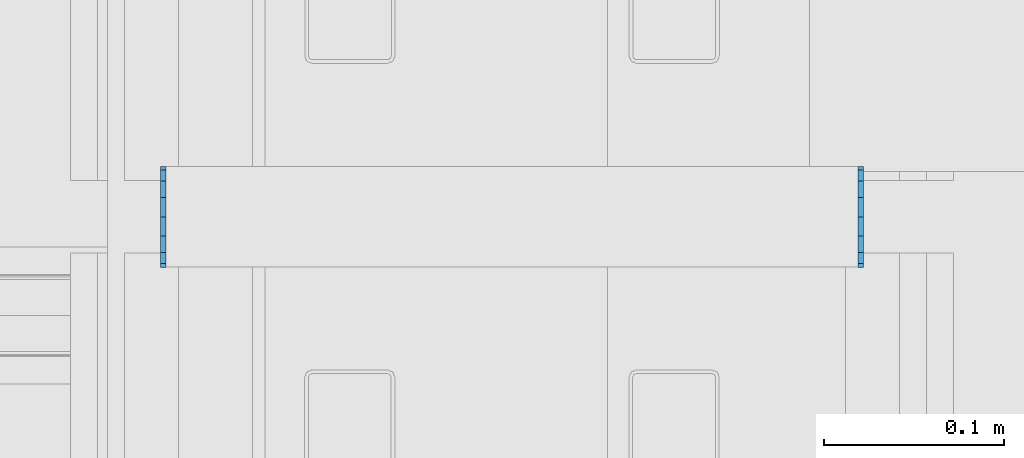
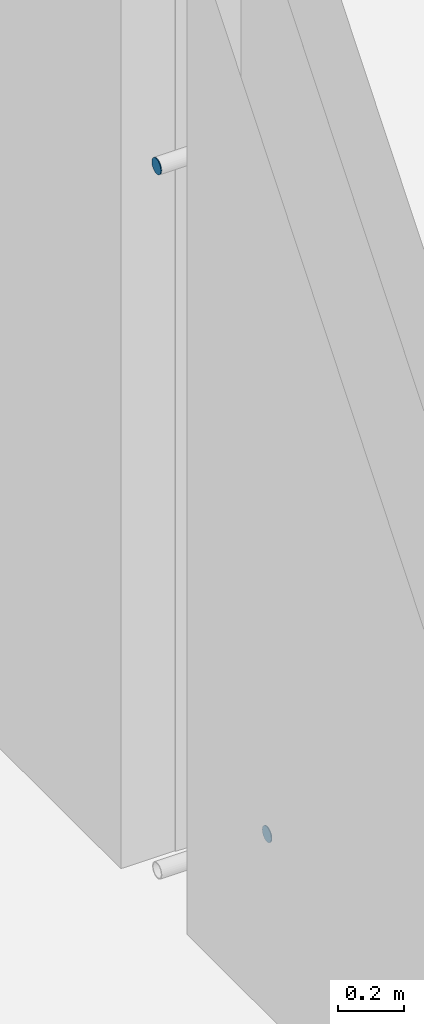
# One storey, part 50 of 230: 2 beams.
"""IFC4X3_ADD2 building model written with IfcOpenShell, lengths in millimetres."""

from ifc_helpers import new_model, si_unit, direction, frame, origin_with_axes, place, context, subcontext, project, spatial, indexed_curve, outline, extrude, material, element, save


model = new_model("IFC4X3_ADD2")

# Units and contexts
model_context = context("Model", 3, precision=1e-05, world=origin_with_axes(), true_north=direction((0.0, 1.0)))
body_context = subcontext(model_context, "Body", "Model", "MODEL_VIEW")
ifc_project = project(units=[si_unit("LENGTHUNIT", "METRE", prefix="MILLI"), si_unit("AREAUNIT", "SQUARE_METRE"), si_unit("VOLUMEUNIT", "CUBIC_METRE"), si_unit("PLANEANGLEUNIT", "RADIAN"), si_unit("TIMEUNIT", "SECOND"), si_unit("MASSUNIT", "GRAM")], contexts=[model_context])

# Site, building, storey
site_placement = place(None, origin_with_axes())
site = spatial("IfcSite", under=ifc_project, at=site_placement, Name="Site", CompositionType="ELEMENT")
building_placement = place(site_placement, origin_with_axes())
building = spatial("IfcBuilding", under=site, at=building_placement, Name="IFC Building Story")
storey_placement = place(building_placement, origin_with_axes())
storey = spatial("IfcBuildingStorey", under=building, at=storey_placement, Name="ETAGE 00 (0)", Elevation=0.0)

# Beams
ifc_material = material(Name="STEEL/Accessory 22919")
beam_1_placement = place(storey_placement, frame((40161.189, 12564.838, 110.0), z_axis=(-1.0, 0.0, 0.0), x_axis=(0.0, 0.5555702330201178, 0.8314696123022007)))
element("IfcBeam", 1, at=beam_1_placement, inside=storey, material=ifc_material, Name="TA4", ObjectType="D56", context=body_context, shape_type="SweptSolid", body=[
    extrude(outline(indexed_curve([(23.28114914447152, 15.55596652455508), (27.46198785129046, 5.462529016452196), (27.46198785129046, -5.462529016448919), (23.28114914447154, -15.55596652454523), (15.55596652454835, -23.28114914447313), (5.462529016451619, -27.46198785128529), (-5.462529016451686, -27.46198785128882), (-15.55596652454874, -23.28114914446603), (-23.2811491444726, -15.55596652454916), (-27.46198785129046, -5.462529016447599), (-27.46198785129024, 5.462529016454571), (-23.28114914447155, 15.55596652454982), (-15.55596652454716, 23.28114914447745), (-5.462529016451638, 27.46198785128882), (5.462529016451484, 27.46198785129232), (15.55596652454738, 23.28114914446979), (23.28114914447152, 15.55596652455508)])), origin_with_axes(), (0.0, 0.0, 1.0), 3.0),
])
beam_2_placement = place(storey_placement, frame((39774.18900000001, 12564.838, 2720.0), z_axis=(-1.0, 0.0, 0.0), x_axis=(0.0, 0.1950903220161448, 0.9807852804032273)))
element("IfcBeam", 2, at=beam_2_placement, inside=storey, material=ifc_material, Name="TA4", ObjectType="D56", context=body_context, shape_type="SweptSolid", body=[
    extrude(outline(indexed_curve([(23.28114914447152, 15.55596652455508), (27.46198785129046, 5.462529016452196), (27.46198785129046, -5.462529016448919), (23.28114914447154, -15.55596652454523), (15.55596652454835, -23.28114914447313), (5.462529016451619, -27.46198785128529), (-5.462529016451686, -27.46198785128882), (-15.55596652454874, -23.28114914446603), (-23.2811491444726, -15.55596652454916), (-27.46198785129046, -5.462529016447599), (-27.46198785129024, 5.462529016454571), (-23.28114914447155, 15.55596652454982), (-15.55596652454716, 23.28114914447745), (-5.462529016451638, 27.46198785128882), (5.462529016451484, 27.46198785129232), (15.55596652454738, 23.28114914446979), (23.28114914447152, 15.55596652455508)])), origin_with_axes(), (0.0, 0.0, 1.0), 3.000000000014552),
])

save(model, "model.ifc")
